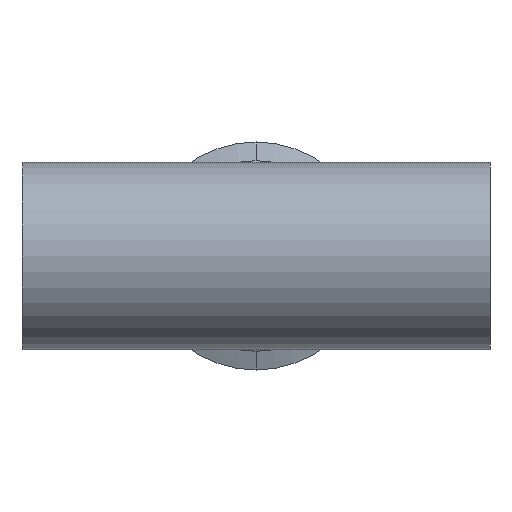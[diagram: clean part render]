
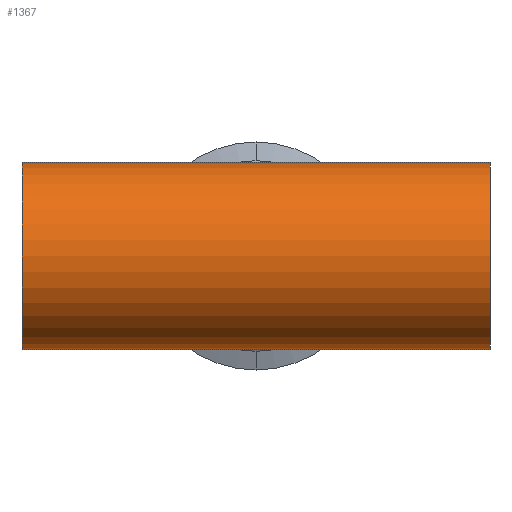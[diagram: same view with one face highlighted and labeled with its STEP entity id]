
A CAD part, front view. The second image highlights one B-rep face of the part: STEP entity #1367.
In plain terms, the highlighted cylindrical face has radius 31.75 mm (diameter 63.5 mm), a partial arc.
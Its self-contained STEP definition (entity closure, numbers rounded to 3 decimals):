
#5 = CARTESIAN_POINT ( 'NONE',  ( -79.4, 0., 31.75 ) ) ;
#16 = VERTEX_POINT ( 'NONE', #1152 ) ;
#33 = EDGE_LOOP ( 'NONE', ( #1840, #1129, #847, #683, #990, #1798 ) ) ;
#41 = AXIS2_PLACEMENT_3D ( 'NONE', #594, #1017, #1447 ) ;
#46 = EDGE_CURVE ( 'NONE', #16, #1107, #245, .T. ) ;
#53 = EDGE_CURVE ( 'NONE', #102, #82, #1701, .T. ) ;
#82 = VERTEX_POINT ( 'NONE', #1789 ) ;
#99 = CARTESIAN_POINT ( 'NONE',  ( 0., 0., 31.75 ) ) ;
#102 = VERTEX_POINT ( 'NONE', #177 ) ;
#117 = VERTEX_POINT ( 'NONE', #1755 ) ;
#129 = LINE ( 'NONE', #5, #1194 ) ;
#168 = DIRECTION ( 'NONE',  ( 1., 0., 0. ) ) ;
#177 = CARTESIAN_POINT ( 'NONE',  ( -79.4, 0., -31.75 ) ) ;
#245 = CIRCLE ( 'NONE', #41, 31.75 ) ;
#321 = EDGE_CURVE ( 'NONE', #82, #16, #647, .T. ) ;
#420 = AXIS2_PLACEMENT_3D ( 'NONE', #935, #928, #918 ) ;
#450 = VECTOR ( 'NONE', #1684, 1000. ) ;
#548 = CARTESIAN_POINT ( 'NONE',  ( -79.4, 0., -31.75 ) ) ;
#594 = CARTESIAN_POINT ( 'NONE',  ( 79.4, 0., 0. ) ) ;
#647 = LINE ( 'NONE', #548, #1724 ) ;
#683 = ORIENTED_EDGE ( 'NONE', *, *, #321, .T. ) ;
#847 = ORIENTED_EDGE ( 'NONE', *, *, #53, .T. ) ;
#861 = EDGE_CURVE ( 'NONE', #117, #102, #915, .T. ) ;
#915 = CIRCLE ( 'NONE', #420, 31.75 ) ;
#918 = DIRECTION ( 'NONE',  ( 0., 0., -1. ) ) ;
#928 = DIRECTION ( 'NONE',  ( 1., 0., 0. ) ) ;
#935 = CARTESIAN_POINT ( 'NONE',  ( -79.4, 0., 0. ) ) ;
#963 = VECTOR ( 'NONE', #1249, 1000. ) ;
#965 = EDGE_CURVE ( 'NONE', #1540, #1107, #129, .T. ) ;
#990 = ORIENTED_EDGE ( 'NONE', *, *, #46, .T. ) ;
#1017 = DIRECTION ( 'NONE',  ( -1., 0., 0. ) ) ;
#1080 = CYLINDRICAL_SURFACE ( 'NONE', #1873, 31.75 ) ;
#1107 = VERTEX_POINT ( 'NONE', #1424 ) ;
#1113 = DIRECTION ( 'NONE',  ( 0., 0., -1. ) ) ;
#1116 = DIRECTION ( 'NONE',  ( 1., 0., 0. ) ) ;
#1122 = FACE_OUTER_BOUND ( 'NONE', #33, .T. ) ;
#1129 = ORIENTED_EDGE ( 'NONE', *, *, #861, .T. ) ;
#1152 = CARTESIAN_POINT ( 'NONE',  ( 79.4, 0., -31.75 ) ) ;
#1194 = VECTOR ( 'NONE', #168, 1000. ) ;
#1236 = DIRECTION ( 'NONE',  ( 1., 0., 0. ) ) ;
#1249 = DIRECTION ( 'NONE',  ( 1., 0., 0. ) ) ;
#1297 = CARTESIAN_POINT ( 'NONE',  ( -79.4, 0., -31.75 ) ) ;
#1308 = EDGE_CURVE ( 'NONE', #117, #1540, #1556, .T. ) ;
#1366 = CARTESIAN_POINT ( 'NONE',  ( -79.4, 0., 31.75 ) ) ;
#1367 = ADVANCED_FACE ( 'NONE', ( #1122 ), #1080, .T. ) ;
#1424 = CARTESIAN_POINT ( 'NONE',  ( 79.4, 0., 31.75 ) ) ;
#1447 = DIRECTION ( 'NONE',  ( 0., 0., -1. ) ) ;
#1540 = VERTEX_POINT ( 'NONE', #99 ) ;
#1556 = LINE ( 'NONE', #1366, #450 ) ;
#1579 = CARTESIAN_POINT ( 'NONE',  ( -79.4, 0., 0. ) ) ;
#1684 = DIRECTION ( 'NONE',  ( 1., 0., 0. ) ) ;
#1701 = LINE ( 'NONE', #1297, #963 ) ;
#1724 = VECTOR ( 'NONE', #1116, 1000. ) ;
#1755 = CARTESIAN_POINT ( 'NONE',  ( -79.4, 0., 31.75 ) ) ;
#1789 = CARTESIAN_POINT ( 'NONE',  ( 0., 0., -31.75 ) ) ;
#1798 = ORIENTED_EDGE ( 'NONE', *, *, #965, .F. ) ;
#1840 = ORIENTED_EDGE ( 'NONE', *, *, #1308, .F. ) ;
#1873 = AXIS2_PLACEMENT_3D ( 'NONE', #1579, #1236, #1113 ) ;
